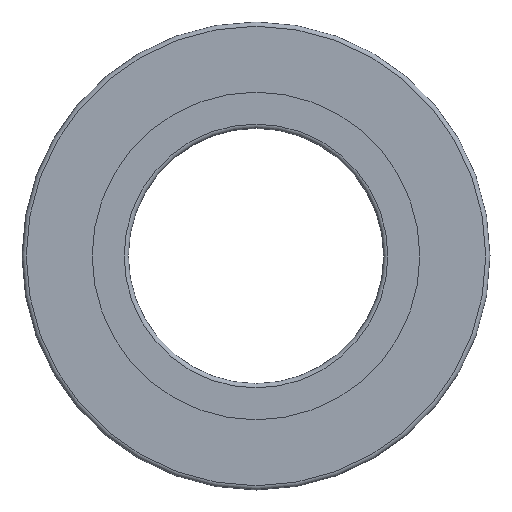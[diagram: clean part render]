
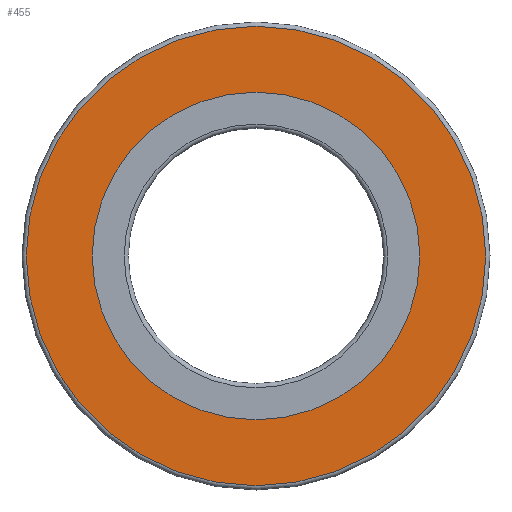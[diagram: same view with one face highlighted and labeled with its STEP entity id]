
A CAD part, left-side view. The second image highlights one B-rep face of the part: STEP entity #455.
In plain terms, the highlighted planar face has unit normal (-1, 0, 0).
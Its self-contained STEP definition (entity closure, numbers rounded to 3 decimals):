
#455 = ADVANCED_FACE( '', ( #672, #673 ), #674, .T. );
#672 = FACE_BOUND( '', #790, .T. );
#673 = FACE_OUTER_BOUND( '', #791, .T. );
#674 = PLANE( '', #792 );
#790 = EDGE_LOOP( '', ( #914 ) );
#791 = EDGE_LOOP( '', ( #915 ) );
#792 = AXIS2_PLACEMENT_3D( '', #916, #917, #918 );
#914 = ORIENTED_EDGE( '', *, *, #1035, .T. );
#915 = ORIENTED_EDGE( '', *, *, #1041, .F. );
#916 = CARTESIAN_POINT( '', ( 0., 54., 0. ) );
#917 = DIRECTION( '', ( -1., 0., 0. ) );
#918 = DIRECTION( '', ( 0., 0., 1. ) );
#1035 = EDGE_CURVE( '', #1097, #1097, #1098, .T. );
#1041 = EDGE_CURVE( '', #1106, #1106, #1107, .T. );
#1097 = VERTEX_POINT( '', #1171 );
#1098 = CIRCLE( '', #1172, 38.5 );
#1106 = VERTEX_POINT( '', #1180 );
#1107 = CIRCLE( '', #1181, 54. );
#1171 = CARTESIAN_POINT( '', ( 0., 0., -38.5 ) );
#1172 = AXIS2_PLACEMENT_3D( '', #1248, #1249, #1250 );
#1180 = CARTESIAN_POINT( '', ( 0., 0., -54. ) );
#1181 = AXIS2_PLACEMENT_3D( '', #1257, #1258, #1259 );
#1248 = CARTESIAN_POINT( '', ( 0., 0., 0. ) );
#1249 = DIRECTION( '', ( 1., 0., 0. ) );
#1250 = DIRECTION( '', ( 0., 0., -1. ) );
#1257 = CARTESIAN_POINT( '', ( 0., 0., 0. ) );
#1258 = DIRECTION( '', ( 1., 0., 0. ) );
#1259 = DIRECTION( '', ( 0., 0., -1. ) );
